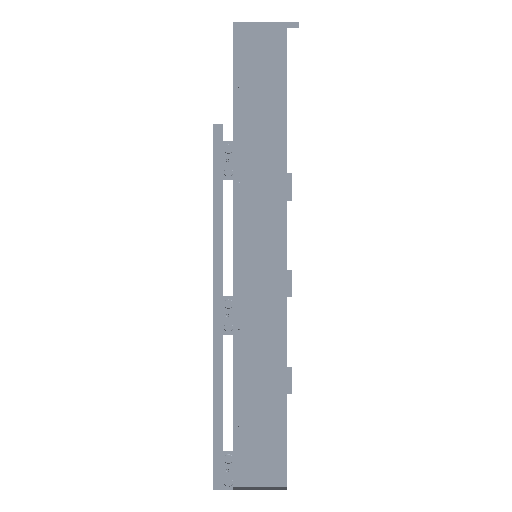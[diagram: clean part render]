
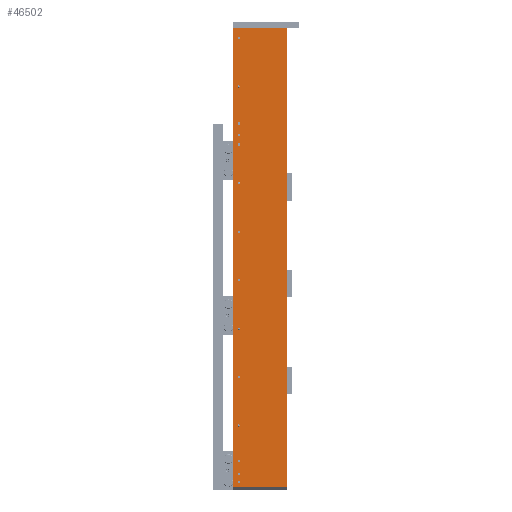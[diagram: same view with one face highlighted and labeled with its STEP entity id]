
A CAD part, left-side view. The second image highlights one B-rep face of the part: STEP entity #46502.
In plain terms, the highlighted planar face has unit normal (-1, 0, 0).
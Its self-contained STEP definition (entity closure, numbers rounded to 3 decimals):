
#46502=ADVANCED_FACE('',(#65284,#65285,#65286,#65287,#65288,#65289,#65290,
#65291,#65292,#65293,#65294,#65295,#65296,#65297,#65298),#52978,.F.);
#52978=PLANE('',#134871);
#55197=LINE('',#181666,#60235);
#55198=LINE('',#181669,#60236);
#55199=LINE('',#181671,#60237);
#55200=LINE('',#181673,#60238);
#60235=VECTOR('',#148812,1.);
#60236=VECTOR('',#148813,1.);
#60237=VECTOR('',#148814,1.);
#60238=VECTOR('',#148815,1.);
#65284=FACE_BOUND('',#69314,.T.);
#65285=FACE_BOUND('',#69315,.T.);
#65286=FACE_BOUND('',#69316,.T.);
#65287=FACE_BOUND('',#69317,.T.);
#65288=FACE_BOUND('',#69318,.T.);
#65289=FACE_BOUND('',#69319,.T.);
#65290=FACE_BOUND('',#69320,.T.);
#65291=FACE_BOUND('',#69321,.T.);
#65292=FACE_BOUND('',#69322,.T.);
#65293=FACE_BOUND('',#69323,.T.);
#65294=FACE_BOUND('',#69324,.T.);
#65295=FACE_BOUND('',#69325,.T.);
#65296=FACE_BOUND('',#69326,.T.);
#65297=FACE_BOUND('',#69327,.T.);
#65298=FACE_BOUND('',#69328,.T.);
#69314=EDGE_LOOP('',(#77971));
#69315=EDGE_LOOP('',(#77972));
#69316=EDGE_LOOP('',(#77973));
#69317=EDGE_LOOP('',(#77974));
#69318=EDGE_LOOP('',(#77975));
#69319=EDGE_LOOP('',(#77976));
#69320=EDGE_LOOP('',(#77977));
#69321=EDGE_LOOP('',(#77978));
#69322=EDGE_LOOP('',(#77979));
#69323=EDGE_LOOP('',(#77980));
#69324=EDGE_LOOP('',(#77981));
#69325=EDGE_LOOP('',(#77982));
#69326=EDGE_LOOP('',(#77983));
#69327=EDGE_LOOP('',(#77984));
#69328=EDGE_LOOP('',(#77985,#77986,#77987,#77988));
#77971=ORIENTED_EDGE('',*,*,#114065,.T.);
#77972=ORIENTED_EDGE('',*,*,#114066,.T.);
#77973=ORIENTED_EDGE('',*,*,#114067,.T.);
#77974=ORIENTED_EDGE('',*,*,#114068,.T.);
#77975=ORIENTED_EDGE('',*,*,#114069,.T.);
#77976=ORIENTED_EDGE('',*,*,#114070,.T.);
#77977=ORIENTED_EDGE('',*,*,#114071,.T.);
#77978=ORIENTED_EDGE('',*,*,#114072,.T.);
#77979=ORIENTED_EDGE('',*,*,#114073,.T.);
#77980=ORIENTED_EDGE('',*,*,#114074,.T.);
#77981=ORIENTED_EDGE('',*,*,#114075,.T.);
#77982=ORIENTED_EDGE('',*,*,#114076,.T.);
#77983=ORIENTED_EDGE('',*,*,#114077,.T.);
#77984=ORIENTED_EDGE('',*,*,#114078,.T.);
#77985=ORIENTED_EDGE('',*,*,#114079,.T.);
#77986=ORIENTED_EDGE('',*,*,#114080,.T.);
#77987=ORIENTED_EDGE('',*,*,#114081,.T.);
#77988=ORIENTED_EDGE('',*,*,#114082,.T.);
#104699=VERTEX_POINT('',#181639);
#104700=VERTEX_POINT('',#181641);
#104701=VERTEX_POINT('',#181643);
#104702=VERTEX_POINT('',#181645);
#104703=VERTEX_POINT('',#181647);
#104704=VERTEX_POINT('',#181649);
#104705=VERTEX_POINT('',#181651);
#104706=VERTEX_POINT('',#181653);
#104707=VERTEX_POINT('',#181655);
#104708=VERTEX_POINT('',#181657);
#104709=VERTEX_POINT('',#181659);
#104710=VERTEX_POINT('',#181661);
#104711=VERTEX_POINT('',#181663);
#104712=VERTEX_POINT('',#181665);
#104713=VERTEX_POINT('',#181667);
#104714=VERTEX_POINT('',#181668);
#104715=VERTEX_POINT('',#181670);
#104716=VERTEX_POINT('',#181672);
#114065=EDGE_CURVE('',#104699,#104699,#127425,.T.);
#114066=EDGE_CURVE('',#104700,#104700,#127426,.T.);
#114067=EDGE_CURVE('',#104701,#104701,#127427,.T.);
#114068=EDGE_CURVE('',#104702,#104702,#127428,.T.);
#114069=EDGE_CURVE('',#104703,#104703,#127429,.T.);
#114070=EDGE_CURVE('',#104704,#104704,#127430,.T.);
#114071=EDGE_CURVE('',#104705,#104705,#127431,.T.);
#114072=EDGE_CURVE('',#104706,#104706,#127432,.T.);
#114073=EDGE_CURVE('',#104707,#104707,#127433,.T.);
#114074=EDGE_CURVE('',#104708,#104708,#127434,.T.);
#114075=EDGE_CURVE('',#104709,#104709,#127435,.T.);
#114076=EDGE_CURVE('',#104710,#104710,#127436,.T.);
#114077=EDGE_CURVE('',#104711,#104711,#127437,.T.);
#114078=EDGE_CURVE('',#104712,#104712,#127438,.T.);
#114079=EDGE_CURVE('',#104713,#104714,#55197,.T.);
#114080=EDGE_CURVE('',#104714,#104715,#55198,.T.);
#114081=EDGE_CURVE('',#104715,#104716,#55199,.T.);
#114082=EDGE_CURVE('',#104716,#104713,#55200,.T.);
#127425=CIRCLE('',#134857,3.4);
#127426=CIRCLE('',#134858,3.4);
#127427=CIRCLE('',#134859,3.4);
#127428=CIRCLE('',#134860,3.4);
#127429=CIRCLE('',#134861,2.5);
#127430=CIRCLE('',#134862,2.5);
#127431=CIRCLE('',#134863,2.5);
#127432=CIRCLE('',#134864,2.5);
#127433=CIRCLE('',#134865,2.5);
#127434=CIRCLE('',#134866,2.5);
#127435=CIRCLE('',#134867,2.5);
#127436=CIRCLE('',#134868,2.5);
#127437=CIRCLE('',#134869,2.5);
#127438=CIRCLE('',#134870,2.5);
#134857=AXIS2_PLACEMENT_3D('',#181638,#148784,#148785);
#134858=AXIS2_PLACEMENT_3D('',#181640,#148786,#148787);
#134859=AXIS2_PLACEMENT_3D('',#181642,#148788,#148789);
#134860=AXIS2_PLACEMENT_3D('',#181644,#148790,#148791);
#134861=AXIS2_PLACEMENT_3D('',#181646,#148792,#148793);
#134862=AXIS2_PLACEMENT_3D('',#181648,#148794,#148795);
#134863=AXIS2_PLACEMENT_3D('',#181650,#148796,#148797);
#134864=AXIS2_PLACEMENT_3D('',#181652,#148798,#148799);
#134865=AXIS2_PLACEMENT_3D('',#181654,#148800,#148801);
#134866=AXIS2_PLACEMENT_3D('',#181656,#148802,#148803);
#134867=AXIS2_PLACEMENT_3D('',#181658,#148804,#148805);
#134868=AXIS2_PLACEMENT_3D('',#181660,#148806,#148807);
#134869=AXIS2_PLACEMENT_3D('',#181662,#148808,#148809);
#134870=AXIS2_PLACEMENT_3D('',#181664,#148810,#148811);
#134871=AXIS2_PLACEMENT_3D('',#181674,#148816,#148817);
#148784=DIRECTION('',(1.,0.,0.));
#148785=DIRECTION('',(0.,-1.,0.));
#148786=DIRECTION('',(1.,0.,0.));
#148787=DIRECTION('',(0.,-1.,0.));
#148788=DIRECTION('',(1.,0.,0.));
#148789=DIRECTION('',(0.,-1.,0.));
#148790=DIRECTION('',(1.,0.,0.));
#148791=DIRECTION('',(0.,-1.,0.));
#148792=DIRECTION('',(1.,0.,0.));
#148793=DIRECTION('',(0.,-1.,0.));
#148794=DIRECTION('',(1.,0.,0.));
#148795=DIRECTION('',(0.,-1.,0.));
#148796=DIRECTION('',(1.,0.,0.));
#148797=DIRECTION('',(0.,-1.,0.));
#148798=DIRECTION('',(1.,0.,0.));
#148799=DIRECTION('',(0.,-1.,0.));
#148800=DIRECTION('',(1.,0.,0.));
#148801=DIRECTION('',(0.,-1.,0.));
#148802=DIRECTION('',(1.,0.,0.));
#148803=DIRECTION('',(0.,-1.,0.));
#148804=DIRECTION('',(1.,0.,0.));
#148805=DIRECTION('',(0.,-1.,0.));
#148806=DIRECTION('',(1.,0.,0.));
#148807=DIRECTION('',(0.,-1.,0.));
#148808=DIRECTION('',(1.,0.,0.));
#148809=DIRECTION('',(0.,-1.,0.));
#148810=DIRECTION('',(1.,0.,0.));
#148811=DIRECTION('',(0.,-1.,0.));
#148812=DIRECTION('',(0.,0.,-1.));
#148813=DIRECTION('',(0.,-1.,0.));
#148814=DIRECTION('',(0.,0.,1.));
#148815=DIRECTION('',(0.,1.,0.));
#148816=DIRECTION('',(1.,0.,0.));
#148817=DIRECTION('',(0.,-1.,0.));
#181638=CARTESIAN_POINT('',(-456.,124.,108.744));
#181639=CARTESIAN_POINT('',(-456.,120.6,108.744));
#181640=CARTESIAN_POINT('',(-456.,124.,163.744));
#181641=CARTESIAN_POINT('',(-456.,120.6,163.744));
#181642=CARTESIAN_POINT('',(-456.,124.,-762.256));
#181643=CARTESIAN_POINT('',(-456.,120.6,-762.256));
#181644=CARTESIAN_POINT('',(-456.,124.,-707.256));
#181645=CARTESIAN_POINT('',(-456.,120.6,-707.256));
#181646=CARTESIAN_POINT('',(-456.,124.,383.744));
#181647=CARTESIAN_POINT('',(-456.,121.5,383.744));
#181648=CARTESIAN_POINT('',(-456.,124.,258.744));
#181649=CARTESIAN_POINT('',(-456.,121.5,258.744));
#181650=CARTESIAN_POINT('',(-456.,124.,133.744));
#181651=CARTESIAN_POINT('',(-456.,121.5,133.744));
#181652=CARTESIAN_POINT('',(-456.,124.,8.744));
#181653=CARTESIAN_POINT('',(-456.,121.5,8.744));
#181654=CARTESIAN_POINT('',(-456.,124.,-116.256));
#181655=CARTESIAN_POINT('',(-456.,121.5,-116.256));
#181656=CARTESIAN_POINT('',(-456.,124.,-241.256));
#181657=CARTESIAN_POINT('',(-456.,121.5,-241.256));
#181658=CARTESIAN_POINT('',(-456.,124.,-366.256));
#181659=CARTESIAN_POINT('',(-456.,121.5,-366.256));
#181660=CARTESIAN_POINT('',(-456.,124.,-491.256));
#181661=CARTESIAN_POINT('',(-456.,121.5,-491.256));
#181662=CARTESIAN_POINT('',(-456.,124.,-616.256));
#181663=CARTESIAN_POINT('',(-456.,121.5,-616.256));
#181664=CARTESIAN_POINT('',(-456.,124.,-741.256));
#181665=CARTESIAN_POINT('',(-456.,121.5,-741.256));
#181666=CARTESIAN_POINT('',(-456.,140.,407.244));
#181667=CARTESIAN_POINT('',(-456.,140.,410.244));
#181668=CARTESIAN_POINT('',(-456.,140.,-774.756));
#181669=CARTESIAN_POINT('',(-456.,0.,-774.756));
#181670=CARTESIAN_POINT('',(-456.,0.,-774.756));
#181671=CARTESIAN_POINT('',(-456.,0.,-672.756));
#181672=CARTESIAN_POINT('',(-456.,0.,410.244));
#181673=CARTESIAN_POINT('',(-456.,0.,410.244));
#181674=CARTESIAN_POINT('',(-456.,0.,-672.756));
